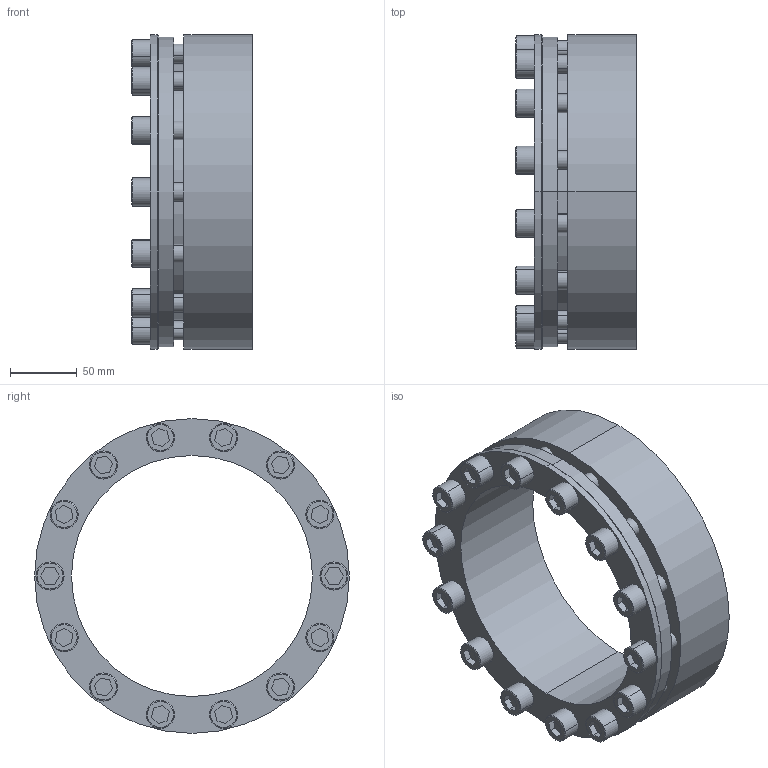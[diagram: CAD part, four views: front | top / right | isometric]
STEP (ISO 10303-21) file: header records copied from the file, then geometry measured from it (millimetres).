
FILE_DESCRIPTION (( 'STEP AP203' ), '1' );
FILE_NAME ('SD-180.step', '2009-09-29T16:26:49', ( 'USER' ), ( 'HOME' ), 'SwSTEP 2.0', 'SolidWorks 2007', '' );
FILE_SCHEMA (( 'CONFIG_CONTROL_DESIGN' ));
Length unit declared in the file: millimetre
Products named in the file (1): SD-180
Bounding box: 90 x 235 x 235 mm (x, y, z)
Volume: 1252277.8 mm3; surface area: 235734.9 mm2
Topology: 15 solids, 15 shells, 297 faces, 678 edges, 442 vertices
Faces by surface type: plane 145, cylinder 122, cone 30
Entity records: 8571 total; most frequent: DIRECTION 1548, CARTESIAN_POINT 1418, ORIENTED_EDGE 1356, EDGE_CURVE 678, AXIS2_PLACEMENT_3D 572, VERTEX_POINT 442, VECTOR 404, LINE 404
